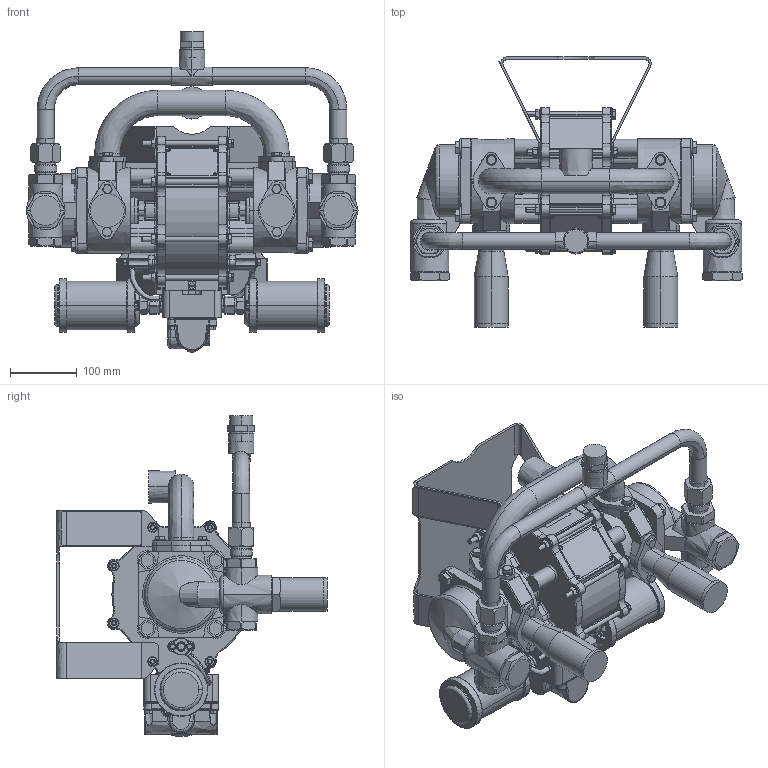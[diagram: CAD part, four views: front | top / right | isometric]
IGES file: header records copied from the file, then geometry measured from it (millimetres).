
Start section:  PTC IGES file: 220666-en-zac.igs
Global section: file name: 220666-en-zac.igs; native system: Creo Parametric by PTC Inc.; preprocessor: 2019030; author: qusrh3; organization: Unknown; date: 20191231.155214; units: inch
Bounding box: 498.06 x 405.35 x 481 mm (x, y, z)
Surface area: 1246337.6 mm2 (no closed solid volume)
Topology: 0 solids, 0 shells, 2313 faces, 10512 edges, 10512 vertices
Faces by surface type: revolution 1308, bspline 1003, extrusion 2
